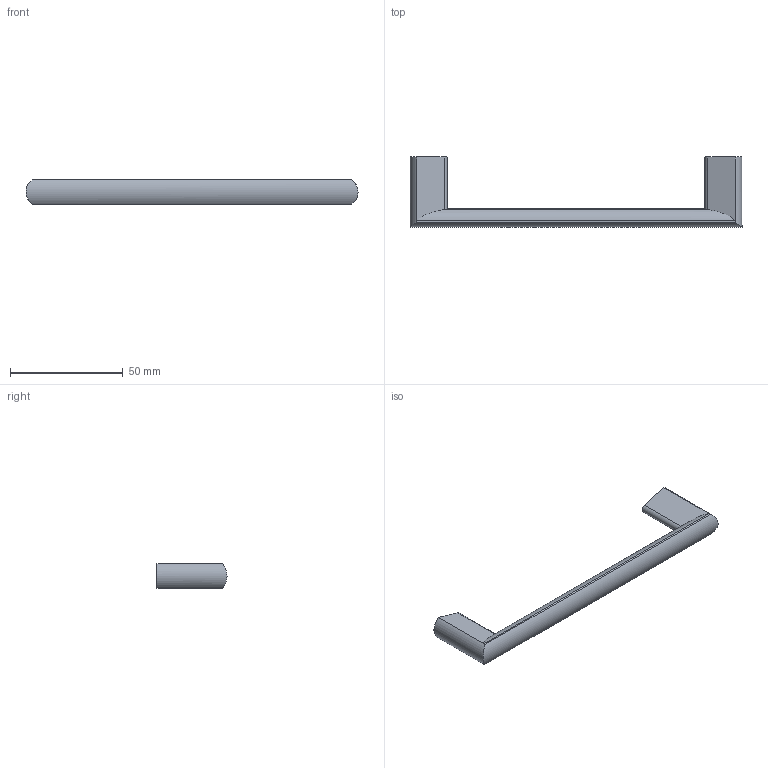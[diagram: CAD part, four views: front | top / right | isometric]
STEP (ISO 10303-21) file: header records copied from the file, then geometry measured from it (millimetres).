
FILE_DESCRIPTION( ( '' ), '1' );
FILE_NAME( 'C:/Documents and Settings/Sachin/Desktop/Sheet 10_1/stp/9113183.stp', '2013-10-22T10:40:44', ( '' ), ( '' ), ' ', ' ', ' ' );
FILE_SCHEMA( ( 'CONFIG_CONTROL_DESIGN' ) );
Length unit declared in the file: millimetre
Products named in the file (1): 1
Bounding box: 147 x 31 x 11 mm (x, y, z)
Volume: 14852.4 mm3; surface area: 6857.1 mm2
Topology: 1 solids, 1 shells, 28 faces, 74 edges, 50 vertices
Faces by surface type: cylinder 15, plane 13
Entity records: 1044 total; most frequent: CARTESIAN_POINT 305, ORIENTED_EDGE 148, DIRECTION 142, EDGE_CURVE 74, AXIS2_PLACEMENT_3D 55, VERTEX_POINT 50, LINE 32, VECTOR 32
